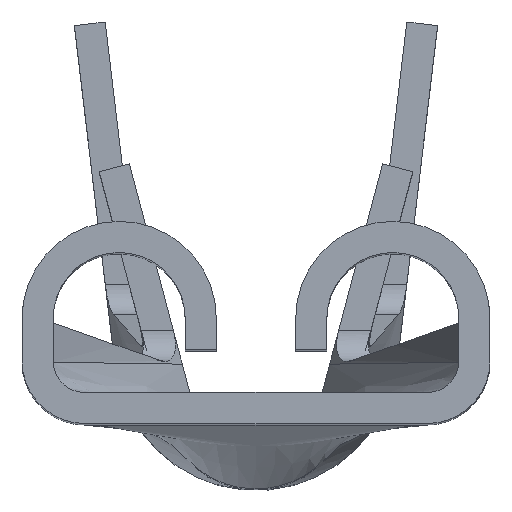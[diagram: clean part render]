
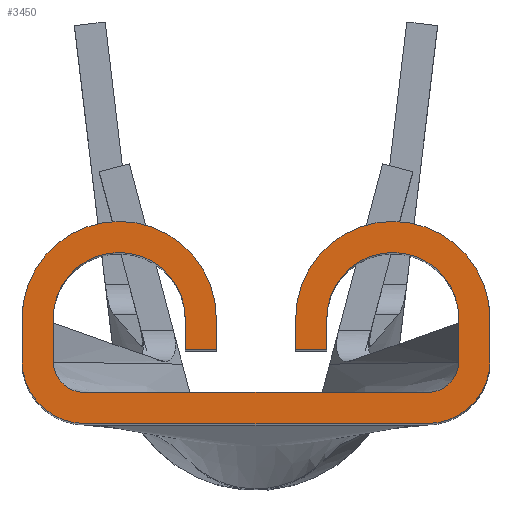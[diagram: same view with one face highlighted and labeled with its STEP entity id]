
A CAD part, top view. The second image highlights one B-rep face of the part: STEP entity #3450.
In plain terms, the highlighted planar face has unit normal (0, 0, 1).
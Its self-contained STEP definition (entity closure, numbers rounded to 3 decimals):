
#1067=DIRECTION('',(1.,0.,0.));
#1068=VECTOR('',#1067,2.741);
#1069=CARTESIAN_POINT('',(-1.37,0.,0.));
#1070=LINE('',#1069,#1068);
#1071=CARTESIAN_POINT('',(-1.37,0.503,0.));
#1072=DIRECTION('',(0.,0.,1.));
#1073=DIRECTION('',(-1.,0.,0.));
#1074=AXIS2_PLACEMENT_3D('',#1071,#1072,#1073);
#1076=DIRECTION('',(0.,-1.,0.));
#1077=VECTOR('',#1076,0.338);
#1078=CARTESIAN_POINT('',(-1.873,0.841,0.));
#1079=LINE('',#1078,#1077);
#1080=CARTESIAN_POINT('',(-1.095,0.841,0.));
#1081=DIRECTION('',(0.,0.,1.));
#1082=DIRECTION('',(1.,0.,0.));
#1083=AXIS2_PLACEMENT_3D('',#1080,#1081,#1082);
#1085=DIRECTION('',(0.,1.,0.));
#1086=VECTOR('',#1085,0.249);
#1087=CARTESIAN_POINT('',(-0.318,0.592,0.));
#1088=LINE('',#1087,#1086);
#1089=DIRECTION('',(1.,0.,0.));
#1090=VECTOR('',#1089,0.249);
#1091=CARTESIAN_POINT('',(-0.566,0.592,0.));
#1092=LINE('',#1091,#1090);
#1093=DIRECTION('',(0.,-1.,0.));
#1094=VECTOR('',#1093,0.249);
#1095=CARTESIAN_POINT('',(-0.566,0.841,0.));
#1096=LINE('',#1095,#1094);
#1097=CARTESIAN_POINT('',(-1.095,0.841,0.));
#1098=DIRECTION('',(0.,0.,-1.));
#1099=DIRECTION('',(-1.,0.,0.));
#1100=AXIS2_PLACEMENT_3D('',#1097,#1098,#1099);
#1102=DIRECTION('',(0.,1.,0.));
#1103=VECTOR('',#1102,0.338);
#1104=CARTESIAN_POINT('',(-1.624,0.503,0.));
#1105=LINE('',#1104,#1103);
#1106=CARTESIAN_POINT('',(-1.37,0.503,0.));
#1107=DIRECTION('',(0.,0.,-1.));
#1108=DIRECTION('',(0.,-1.,0.));
#1109=AXIS2_PLACEMENT_3D('',#1106,#1107,#1108);
#1111=DIRECTION('',(-1.,0.,0.));
#1112=VECTOR('',#1111,2.741);
#1113=CARTESIAN_POINT('',(1.37,0.249,0.));
#1114=LINE('',#1113,#1112);
#1115=CARTESIAN_POINT('',(1.37,0.503,0.));
#1116=DIRECTION('',(0.,0.,-1.));
#1117=DIRECTION('',(1.,0.,0.));
#1118=AXIS2_PLACEMENT_3D('',#1115,#1116,#1117);
#1120=DIRECTION('',(0.,-1.,0.));
#1121=VECTOR('',#1120,0.338);
#1122=CARTESIAN_POINT('',(1.624,0.841,0.));
#1123=LINE('',#1122,#1121);
#1124=CARTESIAN_POINT('',(1.095,0.841,0.));
#1125=DIRECTION('',(0.,0.,-1.));
#1126=DIRECTION('',(-1.,0.,0.));
#1127=AXIS2_PLACEMENT_3D('',#1124,#1125,#1126);
#1129=DIRECTION('',(0.,1.,0.));
#1130=VECTOR('',#1129,0.249);
#1131=CARTESIAN_POINT('',(0.566,0.592,0.));
#1132=LINE('',#1131,#1130);
#1133=DIRECTION('',(1.,0.,0.));
#1134=VECTOR('',#1133,0.249);
#1135=CARTESIAN_POINT('',(0.318,0.592,0.));
#1136=LINE('',#1135,#1134);
#1137=DIRECTION('',(0.,-1.,0.));
#1138=VECTOR('',#1137,0.249);
#1139=CARTESIAN_POINT('',(0.318,0.841,0.));
#1140=LINE('',#1139,#1138);
#1141=CARTESIAN_POINT('',(1.095,0.841,0.));
#1142=DIRECTION('',(0.,0.,1.));
#1143=DIRECTION('',(1.,0.,0.));
#1144=AXIS2_PLACEMENT_3D('',#1141,#1142,#1143);
#1146=DIRECTION('',(0.,1.,0.));
#1147=VECTOR('',#1146,0.338);
#1148=CARTESIAN_POINT('',(1.873,0.503,0.));
#1149=LINE('',#1148,#1147);
#1150=CARTESIAN_POINT('',(1.37,0.503,0.));
#1151=DIRECTION('',(0.,0.,1.));
#1152=DIRECTION('',(0.,-1.,0.));
#1153=AXIS2_PLACEMENT_3D('',#1150,#1151,#1152);
#1335=CARTESIAN_POINT('',(-1.37,0.,0.));
#1336=CARTESIAN_POINT('',(1.37,0.,0.));
#1337=VERTEX_POINT('',#1335);
#1338=VERTEX_POINT('',#1336);
#1339=CARTESIAN_POINT('',(1.873,0.503,0.));
#1340=VERTEX_POINT('',#1339);
#1341=CARTESIAN_POINT('',(1.873,0.841,0.));
#1342=VERTEX_POINT('',#1341);
#1343=CARTESIAN_POINT('',(0.318,0.841,0.));
#1344=VERTEX_POINT('',#1343);
#1345=CARTESIAN_POINT('',(0.318,0.592,0.));
#1346=VERTEX_POINT('',#1345);
#1347=CARTESIAN_POINT('',(0.566,0.592,0.));
#1348=VERTEX_POINT('',#1347);
#1349=CARTESIAN_POINT('',(0.566,0.841,0.));
#1350=VERTEX_POINT('',#1349);
#1351=CARTESIAN_POINT('',(1.624,0.841,0.));
#1352=VERTEX_POINT('',#1351);
#1353=CARTESIAN_POINT('',(1.624,0.503,0.));
#1354=VERTEX_POINT('',#1353);
#1355=CARTESIAN_POINT('',(1.37,0.249,0.));
#1356=VERTEX_POINT('',#1355);
#1357=CARTESIAN_POINT('',(-1.37,0.249,0.));
#1358=VERTEX_POINT('',#1357);
#1359=CARTESIAN_POINT('',(-1.624,0.503,0.));
#1360=VERTEX_POINT('',#1359);
#1361=CARTESIAN_POINT('',(-1.624,0.841,0.));
#1362=VERTEX_POINT('',#1361);
#1363=CARTESIAN_POINT('',(-0.566,0.841,0.));
#1364=VERTEX_POINT('',#1363);
#1365=CARTESIAN_POINT('',(-0.566,0.592,0.));
#1366=VERTEX_POINT('',#1365);
#1367=CARTESIAN_POINT('',(-0.318,0.592,0.));
#1368=VERTEX_POINT('',#1367);
#1369=CARTESIAN_POINT('',(-0.318,0.841,0.));
#1370=VERTEX_POINT('',#1369);
#1371=CARTESIAN_POINT('',(-1.873,0.841,0.));
#1372=VERTEX_POINT('',#1371);
#1373=CARTESIAN_POINT('',(-1.873,0.503,0.));
#1374=VERTEX_POINT('',#1373);
#3411=CARTESIAN_POINT('',(0.,0.,0.));
#3412=DIRECTION('',(0.,0.,1.));
#3413=DIRECTION('',(1.,0.,0.));
#3414=AXIS2_PLACEMENT_3D('',#3411,#3412,#3413);
#3415=PLANE('',#3414);
#3417=ORIENTED_EDGE('',*,*,#3416,.F.);
#3419=ORIENTED_EDGE('',*,*,#3418,.F.);
#3421=ORIENTED_EDGE('',*,*,#3420,.F.);
#3423=ORIENTED_EDGE('',*,*,#3422,.F.);
#3425=ORIENTED_EDGE('',*,*,#3424,.F.);
#3427=ORIENTED_EDGE('',*,*,#3426,.F.);
#3429=ORIENTED_EDGE('',*,*,#3428,.F.);
#3431=ORIENTED_EDGE('',*,*,#3430,.F.);
#3432=ORIENTED_EDGE('',*,*,#2476,.F.);
#3433=ORIENTED_EDGE('',*,*,#2462,.F.);
#3434=ORIENTED_EDGE('',*,*,#2445,.F.);
#3435=ORIENTED_EDGE('',*,*,#2430,.F.);
#3436=ORIENTED_EDGE('',*,*,#2142,.F.);
#3437=ORIENTED_EDGE('',*,*,#2162,.F.);
#3439=ORIENTED_EDGE('',*,*,#3438,.F.);
#3441=ORIENTED_EDGE('',*,*,#3440,.F.);
#3443=ORIENTED_EDGE('',*,*,#3442,.F.);
#3444=ORIENTED_EDGE('',*,*,#2207,.F.);
#3445=ORIENTED_EDGE('',*,*,#2226,.F.);
#3447=ORIENTED_EDGE('',*,*,#3446,.F.);
#3448=EDGE_LOOP('',(#3417,#3419,#3421,#3423,#3425,#3427,#3429,#3431,#3432,#3433,
#3434,#3435,#3436,#3437,#3439,#3441,#3443,#3444,#3445,#3447));
#3449=FACE_OUTER_BOUND('',#3448,.F.);
#3450=ADVANCED_FACE('',(#3449),#3415,.T.);
#1075=CIRCLE('',#1074,0.503);
#1084=CIRCLE('',#1083,0.778);
#1101=CIRCLE('',#1100,0.529);
#1110=CIRCLE('',#1109,0.254);
#1119=CIRCLE('',#1118,0.254);
#1128=CIRCLE('',#1127,0.529);
#1145=CIRCLE('',#1144,0.778);
#1154=CIRCLE('',#1153,0.503);
#2142=EDGE_CURVE('',#1352,#1354,#1123,.T.);
#2162=EDGE_CURVE('',#1350,#1352,#1128,.T.);
#2207=EDGE_CURVE('',#1342,#1344,#1145,.T.);
#2226=EDGE_CURVE('',#1340,#1342,#1149,.T.);
#2430=EDGE_CURVE('',#1354,#1356,#1119,.T.);
#2445=EDGE_CURVE('',#1356,#1358,#1114,.T.);
#2462=EDGE_CURVE('',#1358,#1360,#1110,.T.);
#2476=EDGE_CURVE('',#1360,#1362,#1105,.T.);
#3416=EDGE_CURVE('',#1337,#1338,#1070,.T.);
#3418=EDGE_CURVE('',#1374,#1337,#1075,.T.);
#3420=EDGE_CURVE('',#1372,#1374,#1079,.T.);
#3422=EDGE_CURVE('',#1370,#1372,#1084,.T.);
#3424=EDGE_CURVE('',#1368,#1370,#1088,.T.);
#3426=EDGE_CURVE('',#1366,#1368,#1092,.T.);
#3428=EDGE_CURVE('',#1364,#1366,#1096,.T.);
#3430=EDGE_CURVE('',#1362,#1364,#1101,.T.);
#3438=EDGE_CURVE('',#1348,#1350,#1132,.T.);
#3440=EDGE_CURVE('',#1346,#1348,#1136,.T.);
#3442=EDGE_CURVE('',#1344,#1346,#1140,.T.);
#3446=EDGE_CURVE('',#1338,#1340,#1154,.T.);
